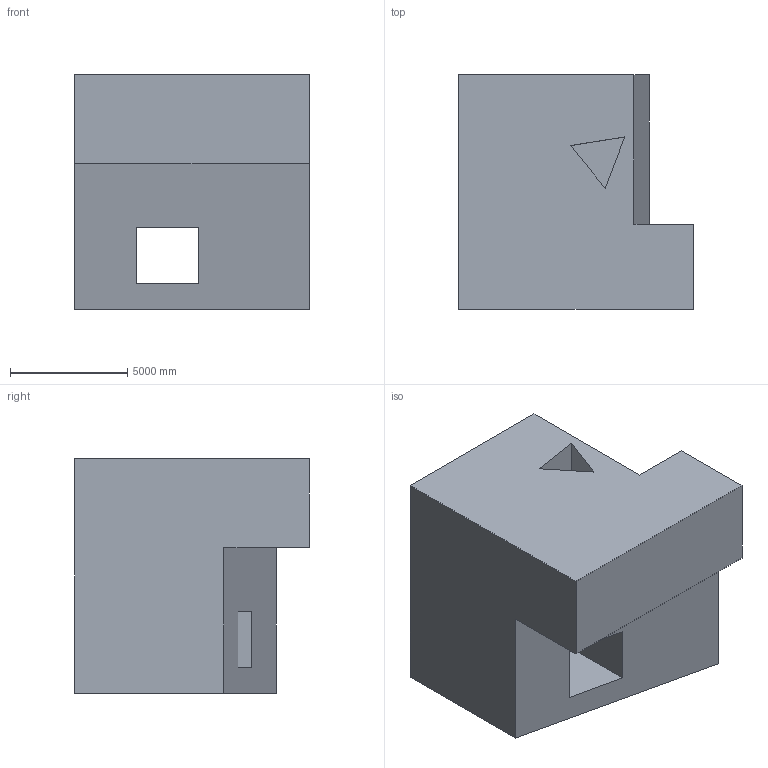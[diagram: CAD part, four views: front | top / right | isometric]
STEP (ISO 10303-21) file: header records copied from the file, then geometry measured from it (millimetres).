
FILE_DESCRIPTION (( 'STEP AP203' ), '1' );
FILE_NAME ('1321.STEP', '2022-08-18T13:45:31', ( 'user' ), ( '' ), 'SwSTEP 2.0', 'SolidWorks 2021', '' );
FILE_SCHEMA (( 'CONFIG_CONTROL_DESIGN' ));
Length unit declared in the file: centimetre
Products named in the file (1): 1321
Bounding box: 10000 x 10000 x 10000 mm (x, y, z)
Volume: 650135515330.5 mm3; surface area: 618236610.6 mm2
Topology: 1 solids, 1 shells, 19 faces, 48 edges, 32 vertices
Faces by surface type: plane 19
Entity records: 643 total; most frequent: CARTESIAN_POINT 100, ORIENTED_EDGE 96, DIRECTION 88, VECTOR 48, LINE 48, EDGE_CURVE 48, VERTEX_POINT 32, EDGE_LOOP 22
